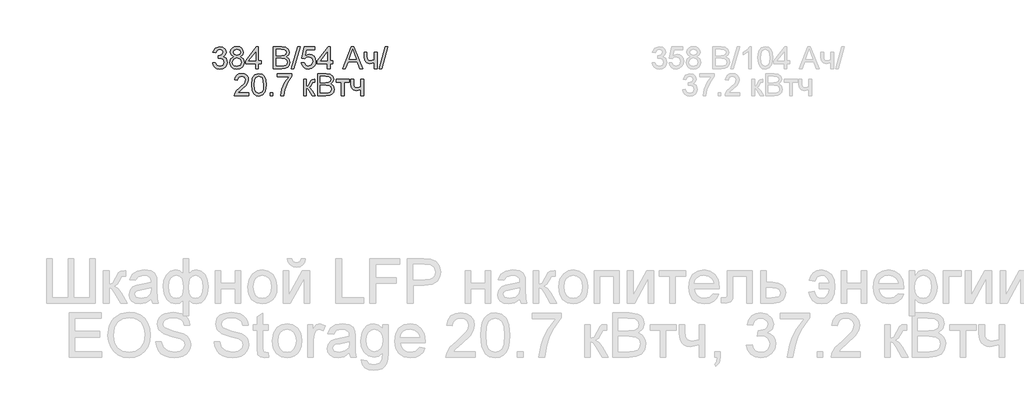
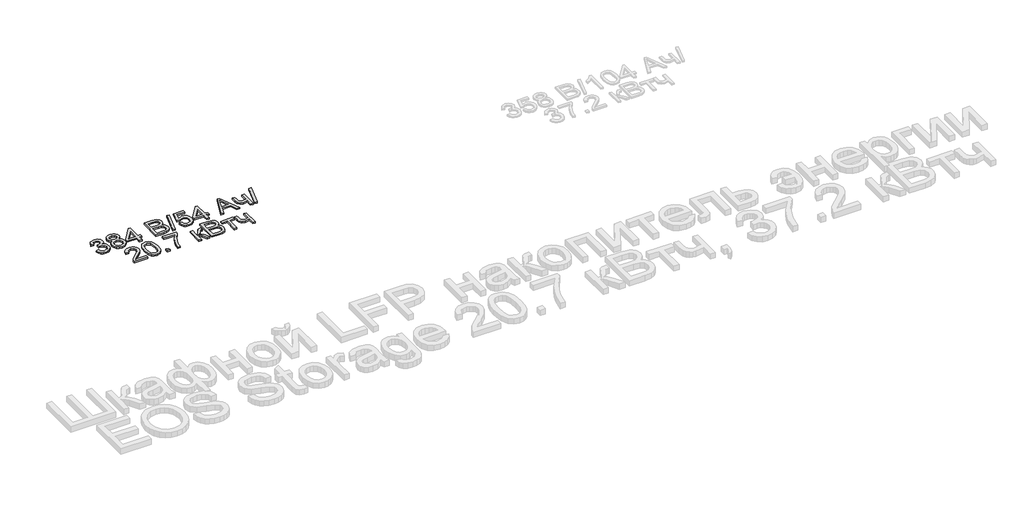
# One storey, part 24 of 26: 1 proxy.
"""IFC4 building model written with IfcOpenShell, lengths in millimetres."""

from ifc_helpers import new_model, si_unit, origin, origin_with_axes, place, context, project, spatial, polyline, outline, extrude, element, save

model = new_model("IFC4")

# Units and contexts
model_context = context("Model", 3, world=origin())
ifc_project = project(units=[si_unit("LENGTHUNIT", "METRE", prefix="MILLI")], contexts=[model_context])

# Site, building, storey
site = spatial("IfcSite", under=ifc_project)
building = spatial("IfcBuilding", under=site)
storey = spatial("IfcBuildingStorey", under=building, Name="Этаж 01", Elevation=0.0)

# Proxy
placement = place(None, origin())
element("IfcBuildingElementProxy", 1, Name="75 мм Arial", ObjectType="75 мм Arial", at=placement, inside=storey, context=model_context, shape_type="SweptSolid", body=[
    extrude(outline(polyline([(14467.3232016, -6023.5163165), (14476.7409807, -6022.3390941), (14481.9373139, -6032.2535139), (14491.6585956, -6035.2885403), (14503.0997257, -6031.1130797), (14507.3487627, -6020.7755956), (14503.1365139, -6011.0359198), (14492.4311478, -6007.1823559), (14485.827666, -6008.2124255), (14486.8761297, -5998.7946464), (14499.0714178, -5996.2010783), (14503.8170955, -5987.8869452), (14500.3773989, -5980.5201083), (14491.5114428, -5977.6046435), (14482.5351221, -5980.5476994), (14477.9182031, -5989.3768673), (14468.500424, -5988.1996449), (14476.2075518, -5973.4291828), (14491.180349, -5968.1868644), (14502.5387056, -5970.7712354), (14510.4849567, -5977.8345697), (14513.2348746, -5987.3351222), (14510.6229125, -5996.0171373), (14502.8973906, -6002.2527371), (14513.1612982, -6008.6906721), (14516.7665418, -6020.9411425), (14514.96392, -6030.1197983), (14509.5560547, -6037.7901379), (14501.3936729, -6042.977274), (14491.3275018, -6044.7063194), (14482.2224224, -6043.2301929), (14474.8096002, -6038.8018134), (14469.6546538, -6032.0281861), (14467.3232016, -6023.5163165)])), origin_with_axes(), (0.0, 0.0, 1.0), 5.0),
    extrude(outline(polyline([(14538.7290969, -6002.0320079), (14530.1482493, -5996.1826842), (14527.3615432, -5987.0776048), (14528.8790565, -5979.7153664), (14533.4315962, -5973.6315179), (14540.508726, -5969.5480278), (14549.6000098, -5968.1868644), (14558.7464759, -5969.5802174), (14565.9155763, -5973.7602766), (14570.5508895, -5979.9406941), (14572.0959938, -5987.3351222), (14569.3460759, -5996.2102754), (14561.0043517, -6002.0320079), (14571.019939, -6009.417239), (14574.4504386, -6021.6033301), (14572.7489844, -6030.6072419), (14567.6446217, -6038.0476553), (14559.76275, -6043.0416534), (14549.7287685, -6044.7063194), (14539.6947871, -6043.0347556), (14531.8129154, -6038.0200641), (14526.7085527, -6030.5083736), (14525.0070985, -6021.3458127), (14528.5755538, -6008.8746131), (14538.7290969, -6002.0320079)]), holes=[polyline([(14536.7793223, -5987.3535163), (14540.1178514, -5994.7479444), (14549.8391331, -5997.617424), (14559.3672768, -5994.7663385), (14562.6782148, -5987.7765806), (14559.2569122, -5980.5385024), (14549.7287685, -5977.6046435), (14540.1730337, -5980.474123), (14536.7793223, -5987.3535163)]), polyline([(14534.4248775, -6021.0147189), (14535.9975731, -6028.1056444), (14541.5617882, -6033.4123421), (14549.8023449, -6035.2885403), (14561.0227458, -6031.3430059), (14565.0326595, -6021.3090245), (14560.8939871, -6011.081905), (14549.4896452, -6007.0352031), (14538.4072001, -6011.0267227), (14534.4248775, -6021.0147189)])]), origin_with_axes(), (0.0, 0.0, 1.0), 5.0),
    extrude(outline(polyline([(14613.2987773, -6043.529097), (14613.2987773, -6025.8707612), (14579.1593282, -6025.8707612), (14579.1593282, -6016.4529822), (14615.6532221, -5969.3640868), (14622.7165564, -5969.3640868), (14622.7165564, -6016.4529822), (14632.1343355, -6016.4529822), (14632.1343355, -6025.8707612), (14622.7165564, -6025.8707612), (14622.7165564, -6043.529097), (14613.2987773, -6043.529097)]), holes=[polyline([(14613.2987773, -6016.4529822), (14613.2987773, -5987.3535163), (14590.747611, -6016.4529822), (14613.2987773, -6016.4529822)])]), origin_with_axes(), (0.0, 0.0, 1.0), 5.0),
    extrude(outline(polyline([(14673.3371189, -6043.529097), (14673.3371189, -5968.1868644), (14702.0870968, -5968.1868644), (14716.1677802, -5970.4033534), (14724.4819133, -5977.2183674), (14727.4893486, -5986.8568756), (14724.9601599, -5995.6584524), (14717.3174114, -6002.3263135), (14726.5972348, -6009.3528597), (14729.8437934, -6021.0699012), (14727.6273044, -6031.1958531), (14722.1366656, -6038.4063402), (14713.9420941, -6042.232313), (14701.8663676, -6043.529097), (14673.3371189, -6043.529097)]), holes=[polyline([(14682.754898, -5998.7946464), (14699.9533813, -5998.7946464), (14709.9965597, -5997.985306), (14716.0390215, -5994.4996241), (14718.0715695, -5988.3651918), (14716.1769773, -5982.2215625), (14710.7507178, -5978.5887278), (14698.6474002, -5977.6046435), (14682.754898, -5977.6046435), (14682.754898, -5998.7946464)]), polyline([(14682.754898, -6034.1113179), (14702.0687027, -6034.1113179), (14709.0584607, -6033.7434359), (14714.9721637, -6031.6924938), (14718.890107, -6027.5078361), (14720.4260143, -6021.1618717), (14718.6233925, -6013.84102), (14712.7832659, -6009.4724213), (14701.1489978, -6008.2124255), (14682.754898, -6008.2124255), (14682.754898, -6034.1113179)])]), origin_with_axes(), (0.0, 0.0, 1.0), 5.0),
    extrude(outline(polyline([(14734.5526829, -6043.529097), (14755.7426858, -5968.1868644), (14764.2407599, -5968.1868644), (14743.050757, -6043.529097), (14734.5526829, -6043.529097)])), origin_with_axes(), (0.0, 0.0, 1.0), 5.0),
    extrude(outline(polyline([(14768.6921321, -6023.5163165), (14778.1099111, -6022.3390941), (14782.8555889, -6032.0419817), (14792.6964323, -6035.2885403), (14804.5054443, -6030.7727888), (14808.7176931, -6018.7890328), (14804.7721587, -6007.6054202), (14792.8435851, -6003.5035359), (14784.5754372, -6005.1406108), (14779.2871335, -6009.3896479), (14769.8693545, -6008.2124255), (14778.1099111, -5969.3640868), (14814.6038051, -5969.3640868), (14814.6038051, -5978.7818659), (14785.7250684, -5978.7818659), (14781.6967606, -5999.5304104), (14795.4739413, -5994.0857569), (14804.2732188, -5995.7734155), (14811.5779757, -6000.8363915), (14816.4960981, -6008.5527163), (14818.1354722, -6018.2004216), (14816.6593457, -6027.6182007), (14812.2309662, -6035.6748164), (14803.7512862, -6042.4484436), (14792.6596441, -6044.7063194), (14783.4097111, -6043.2554848), (14776.0405749, -6038.9029809), (14770.9890953, -6032.1546456), (14768.6921321, -6023.5163165)])), origin_with_axes(), (0.0, 0.0, 1.0), 5.0),
    extrude(outline(polyline([(14856.9838109, -6043.529097), (14856.9838109, -6025.8707612), (14822.8443618, -6025.8707612), (14822.8443618, -6016.4529822), (14859.3382557, -5969.3640868), (14866.40159, -5969.3640868), (14866.40159, -6016.4529822), (14875.8193691, -6016.4529822), (14875.8193691, -6025.8707612), (14866.40159, -6025.8707612), (14866.40159, -6043.529097), (14856.9838109, -6043.529097)]), holes=[polyline([(14856.9838109, -6016.4529822), (14856.9838109, -5987.3535163), (14834.4326446, -6016.4529822), (14856.9838109, -6016.4529822)])]), origin_with_axes(), (0.0, 0.0, 1.0), 5.0),
    extrude(outline(polyline([(14908.2481669, -6043.529097), (14938.32252, -5968.1868644), (14946.3423475, -5968.1868644), (14976.4167006, -6043.529097), (14966.4654927, -6043.529097), (14957.8386599, -6019.9846493), (14926.8078136, -6019.9846493), (14918.1993749, -6043.529097), (14908.2481669, -6043.529097)]), holes=[polyline([(14930.2659044, -6010.5668702), (14954.3989632, -6010.5668702), (14947.6115404, -5992.0440118), (14942.3324338, -5977.6046435), (14937.6419384, -5990.425331), (14930.2659044, -6010.5668702)])]), origin_with_axes(), (0.0, 0.0, 1.0), 5.0),
    extrude(outline(polyline([(14981.7693837, -5988.1996449), (14991.1871628, -5988.1996449), (14991.1871628, -5998.8130405), (14991.9505179, -6008.7642485), (14995.6201408, -6014.1537197), (15002.9042043, -6016.4529822), (15015.9088328, -6013.6018967), (15015.9088328, -5988.1996449), (15025.3266119, -5988.1996449), (15025.3266119, -6043.529097), (15015.9088328, -6043.529097), (15015.9088328, -6022.6333997), (15000.3842126, -6025.8707612), (14989.7064377, -6022.4954439), (14983.4248527, -6014.2272961), (14981.7693837, -6003.4667477), (14981.7693837, -5988.1996449)])), origin_with_axes(), (0.0, 0.0, 1.0), 5.0),
    extrude(outline(polyline([(15032.3899462, -6043.529097), (15053.5799491, -5968.1868644), (15062.0780232, -5968.1868644), (15040.8880203, -6043.529097), (15032.3899462, -6043.529097)])), origin_with_axes(), (0.0, 0.0, 1.0), 5.0),
    extrude(outline(polyline([(14590.3429408, -6125.5924313), (14590.3429408, -6135.0102104), (14540.8996007, -6135.0102104), (14541.9112761, -6128.5170932), (14547.6318412, -6118.5199), (14559.4224591, -6107.6030017), (14575.6828433, -6091.9128347), (14579.7479393, -6081.2442568), (14575.9127695, -6072.608227), (14565.8971822, -6069.0857569), (14555.4585306, -6072.5254535), (14551.4946021, -6082.0352031), (14542.076823, -6080.8579807), (14544.3599907, -6071.7483028), (14549.2965072, -6065.0942372), (14556.6288552, -6061.0245426), (14566.0995173, -6059.6679778), (14575.6391573, -6061.176294), (14582.9577098, -6065.7012425), (14587.6137163, -6072.4610742), (14589.1657184, -6080.6740397), (14587.4918553, -6089.6043751), (14581.9276402, -6098.8382132), (14568.435568, -6111.7416742), (14557.6014432, -6120.8007683), (14553.3524062, -6125.5924313), (14590.3429408, -6125.5924313)])), origin_with_axes(), (0.0, 0.0, 1.0), 5.0),
    extrude(outline(polyline([(14599.7607199, -6097.9460994), (14602.5290319, -6076.2686528), (14610.7511945, -6063.769862), (14624.48239, -6059.6679778), (14635.4820616, -6062.0959989), (14643.0788248, -6069.0949539), (14647.4934088, -6080.2417784), (14649.20406, -6097.9460994), (14646.4633392, -6119.5315754), (14638.2687677, -6132.0579574), (14624.48239, -6136.1874328), (14614.6967289, -6134.394008), (14607.2655126, -6129.0137339), (14601.6369181, -6116.2712213), (14599.7607199, -6097.9460994)]), holes=[polyline([(14609.178499, -6097.9277053), (14610.2821449, -6112.7418534), (14613.5930829, -6121.3158031), (14624.48239, -6126.7696537), (14635.371697, -6121.297409), (14638.682635, -6112.7188607), (14639.786281, -6097.9277053), (14635.5188498, -6074.8063219), (14624.3720254, -6069.0857569), (14613.7402357, -6074.1257402), (14610.3189331, -6083.304396), (14609.178499, -6097.9277053)])]), origin_with_axes(), (0.0, 0.0, 1.0), 5.0),
    extrude(outline(polyline([(14662.1535063, -6135.0102104), (14662.1535063, -6125.5924313), (14671.5712853, -6125.5924313), (14671.5712853, -6135.0102104), (14662.1535063, -6135.0102104)])), origin_with_axes(), (0.0, 0.0, 1.0), 5.0),
    extrude(outline(polyline([(14686.8751763, -6070.2629792), (14686.8751763, -6060.8452002), (14736.3185165, -6060.8452002), (14736.3185165, -6068.4603575), (14722.2930154, -6088.7214583), (14711.5600582, -6114.5375774), (14708.0651793, -6135.0102104), (14698.6474002, -6135.0102104), (14702.3905995, -6113.7650252), (14712.6637042, -6089.7515279), (14726.9007374, -6070.2629792), (14686.8751763, -6070.2629792)])), origin_with_axes(), (0.0, 0.0, 1.0), 5.0),
    extrude(outline(polyline([(14776.3440776, -6079.6807583), (14785.7618566, -6079.6807583), (14785.7618566, -6103.225206), (14792.0710329, -6101.5329488), (14797.2397749, -6091.6737114), (14801.5347972, -6083.1664402), (14805.3239817, -6080.3981282), (14812.2125721, -6079.6807583), (14814.0151939, -6079.6807583), (14814.0151939, -6089.1537197), (14811.4768081, -6089.0985374), (14806.8782832, -6090.0918188), (14803.6409216, -6096.2906304), (14799.84254, -6102.9952798), (14794.5174481, -6106.2786266), (14806.289672, -6117.6645743), (14816.3696386, -6135.0102104), (14805.6642726, -6135.0102104), (14795.786641, -6118.0324563), (14790.8202341, -6110.8495604), (14785.7618566, -6109.1113179), (14785.7618566, -6135.0102104), (14776.3440776, -6135.0102104), (14776.3440776, -6079.6807583)])), origin_with_axes(), (0.0, 0.0, 1.0), 5.0),
    extrude(outline(polyline([(14823.432973, -6135.0102104), (14823.432973, -6059.6679778), (14852.1829509, -6059.6679778), (14866.2636342, -6061.8844668), (14874.5777673, -6068.6994808), (14877.5852026, -6078.337989), (14875.0560139, -6087.1395658), (14867.4132655, -6093.8074269), (14876.6930888, -6100.833973), (14879.9396474, -6112.5510146), (14877.7231584, -6122.6769665), (14872.2325196, -6129.8874536), (14864.0379482, -6133.7134264), (14851.9622217, -6135.0102104), (14823.432973, -6135.0102104)]), holes=[polyline([(14832.850752, -6090.2757598), (14850.0492353, -6090.2757598), (14860.0924138, -6089.4664194), (14866.1348755, -6085.9807375), (14868.1674236, -6079.8463052), (14866.2728313, -6073.7026759), (14860.8465719, -6070.0698412), (14848.7432542, -6069.0857569), (14832.850752, -6069.0857569), (14832.850752, -6090.2757598)]), polyline([(14832.850752, -6125.5924313), (14852.1645568, -6125.5924313), (14859.1543147, -6125.2245493), (14865.0680178, -6123.1736072), (14868.985961, -6118.9889495), (14870.5218683, -6112.6429851), (14868.7192466, -6105.3221334), (14862.8791199, -6100.9535347), (14851.2448518, -6099.6935389), (14832.850752, -6099.6935389), (14832.850752, -6125.5924313)])]), origin_with_axes(), (0.0, 0.0, 1.0), 5.0),
    extrude(outline(polyline([(14887.0029817, -6079.6807583), (14931.7374323, -6079.6807583), (14931.7374323, -6089.0985374), (14914.0790966, -6089.0985374), (14914.0790966, -6135.0102104), (14904.6613175, -6135.0102104), (14904.6613175, -6089.0985374), (14887.0029817, -6089.0985374), (14887.0029817, -6079.6807583)])), origin_with_axes(), (0.0, 0.0, 1.0), 5.0),
    extrude(outline(polyline([(14936.4463219, -6079.6807583), (14945.8641009, -6079.6807583), (14945.8641009, -6090.2941539), (14946.6274561, -6100.2453618), (14950.297079, -6105.6348331), (14957.5811425, -6107.9340955), (14970.585771, -6105.0830101), (14970.585771, -6079.6807583), (14980.0035501, -6079.6807583), (14980.0035501, -6135.0102104), (14970.585771, -6135.0102104), (14970.585771, -6114.1145131), (14955.0611508, -6117.3518746), (14944.3833759, -6113.9765573), (14938.1017908, -6105.7084095), (14936.4463219, -6094.9478611), (14936.4463219, -6079.6807583)])), origin_with_axes(), (0.0, 0.0, 1.0), 5.0),
])

save(model, "model.ifc")
